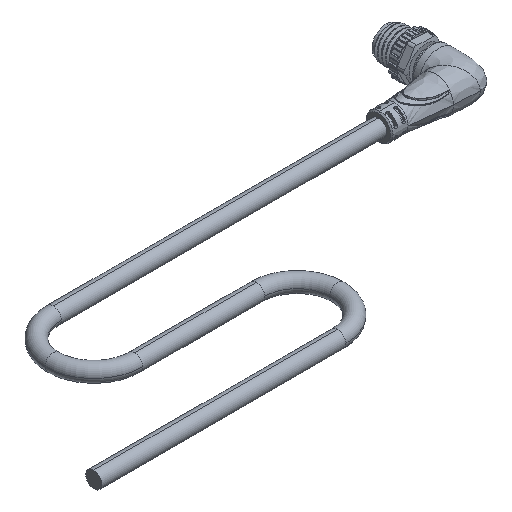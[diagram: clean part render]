
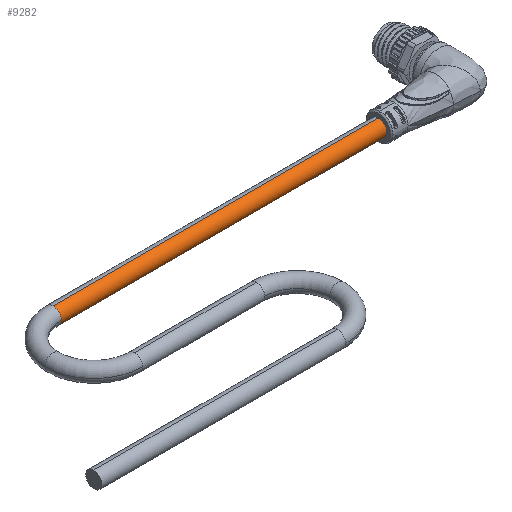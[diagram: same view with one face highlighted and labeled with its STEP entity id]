
A CAD part, isometric view. The second image highlights one B-rep face of the part: STEP entity #9282.
In plain terms, the highlighted cylindrical face has radius 2 mm (diameter 4 mm), a partial arc.
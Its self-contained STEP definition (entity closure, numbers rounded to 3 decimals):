
#1144 = DIRECTION ( 'NONE',  ( 0., 0., -1. ) ) ;
#1221 = AXIS2_PLACEMENT_3D ( 'NONE', #34807, #28821, #34990 ) ;
#2260 = VERTEX_POINT ( 'NONE', #31893 ) ;
#3800 = EDGE_CURVE ( 'NONE', #33737, #18000, #27326, .T. ) ;
#6057 = CARTESIAN_POINT ( 'NONE',  ( -2., 40., 0. ) ) ;
#6564 = CIRCLE ( 'NONE', #1221, 2. ) ;
#9282 = ADVANCED_FACE ( 'NONE', ( #13714 ), #25148, .T. ) ;
#9650 = ORIENTED_EDGE ( 'NONE', *, *, #19461, .T. ) ;
#11164 = CARTESIAN_POINT ( 'NONE',  ( -2., 40., 0. ) ) ;
#12383 = AXIS2_PLACEMENT_3D ( 'NONE', #23952, #24507, #21301 ) ;
#12734 = EDGE_CURVE ( 'NONE', #22375, #2260, #6564, .T. ) ;
#13714 = FACE_OUTER_BOUND ( 'NONE', #29565, .T. ) ;
#13833 = AXIS2_PLACEMENT_3D ( 'NONE', #36759, #24808, #36386 ) ;
#15283 = ORIENTED_EDGE ( 'NONE', *, *, #3800, .F. ) ;
#16749 = CARTESIAN_POINT ( 'NONE',  ( 2., 40., -90. ) ) ;
#17846 = CARTESIAN_POINT ( 'NONE',  ( 2., 40., 0. ) ) ;
#18000 = VERTEX_POINT ( 'NONE', #34776 ) ;
#18098 = EDGE_CURVE ( 'NONE', #22375, #33737, #29803, .T. ) ;
#18392 = DIRECTION ( 'NONE',  ( 0., 0., -1. ) ) ;
#18596 = DIRECTION ( 'NONE',  ( -1., 0., 0. ) ) ;
#19461 = EDGE_CURVE ( 'NONE', #32350, #18000, #31695, .T. ) ;
#21301 = DIRECTION ( 'NONE',  ( -1., 0., 0. ) ) ;
#21577 = CARTESIAN_POINT ( 'NONE',  ( 0., 40., 0. ) ) ;
#22375 = VERTEX_POINT ( 'NONE', #33838 ) ;
#23481 = AXIS2_PLACEMENT_3D ( 'NONE', #21577, #36547, #18596 ) ;
#23952 = CARTESIAN_POINT ( 'NONE',  ( 0., 40., -90. ) ) ;
#24035 = CIRCLE ( 'NONE', #13833, 2. ) ;
#24507 = DIRECTION ( 'NONE',  ( 0., 0., -1. ) ) ;
#24808 = DIRECTION ( 'NONE',  ( 0., 0., -1. ) ) ;
#25078 = EDGE_CURVE ( 'NONE', #2260, #32350, #24035, .T. ) ;
#25148 = CYLINDRICAL_SURFACE ( 'NONE', #23481, 2. ) ;
#27326 = CIRCLE ( 'NONE', #12383, 2. ) ;
#28821 = DIRECTION ( 'NONE',  ( 0., 0., -1. ) ) ;
#29565 = EDGE_LOOP ( 'NONE', ( #36460, #29822, #34661, #9650, #15283 ) ) ;
#29803 = LINE ( 'NONE', #17846, #33954 ) ;
#29822 = ORIENTED_EDGE ( 'NONE', *, *, #12734, .T. ) ;
#31569 = VECTOR ( 'NONE', #1144, 1000. ) ;
#31695 = LINE ( 'NONE', #6057, #31569 ) ;
#31893 = CARTESIAN_POINT ( 'NONE',  ( 0., 38., 0. ) ) ;
#32350 = VERTEX_POINT ( 'NONE', #11164 ) ;
#33737 = VERTEX_POINT ( 'NONE', #16749 ) ;
#33838 = CARTESIAN_POINT ( 'NONE',  ( 2., 40., 0. ) ) ;
#33954 = VECTOR ( 'NONE', #18392, 1000. ) ;
#34661 = ORIENTED_EDGE ( 'NONE', *, *, #25078, .T. ) ;
#34776 = CARTESIAN_POINT ( 'NONE',  ( -2., 40., -90. ) ) ;
#34807 = CARTESIAN_POINT ( 'NONE',  ( 0., 40., 0. ) ) ;
#34990 = DIRECTION ( 'NONE',  ( -1., 0., 0. ) ) ;
#36386 = DIRECTION ( 'NONE',  ( -1., 0., 0. ) ) ;
#36460 = ORIENTED_EDGE ( 'NONE', *, *, #18098, .F. ) ;
#36547 = DIRECTION ( 'NONE',  ( 0., 0., -1. ) ) ;
#36759 = CARTESIAN_POINT ( 'NONE',  ( 0., 40., 0. ) ) ;
